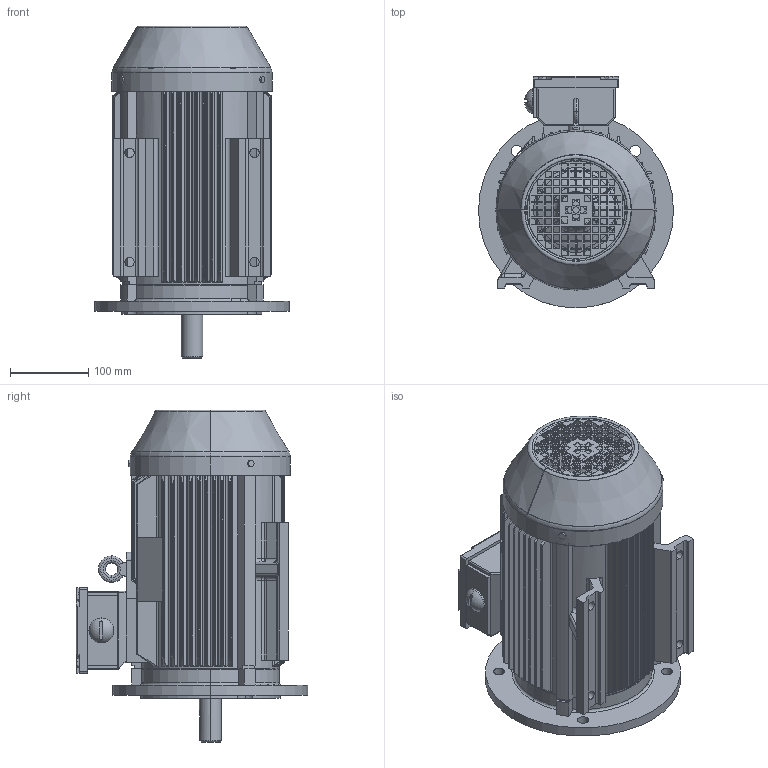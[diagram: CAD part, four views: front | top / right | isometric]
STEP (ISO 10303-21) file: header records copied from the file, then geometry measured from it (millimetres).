
FILE_DESCRIPTION (( 'STEP AP203' ), '1' );
FILE_NAME ('TE3-100L(GX) B35上.STEP', '2019-11-07T00:05:18', ( '微软用户' ), ( '微软中国' ), 'SwSTEP 2.0', 'SolidWorks 2012', '' );
FILE_SCHEMA (( 'CONFIG_CONTROL_DESIGN' ));
Length unit declared in the file: millimetre
Products named in the file (1): TE3-100L(GX) B35奻
Bounding box: 250 x 297 x 425.49 mm (x, y, z)
Volume: 4067499.7 mm3; surface area: 1032294.3 mm2
Topology: 8 solids, 8 shells, 1349 faces, 3649 edges, 2382 vertices
Faces by surface type: plane 782, cylinder 357, cone 104, torus 68, bspline 28, sphere 10
Entity records: 46584 total; most frequent: CARTESIAN_POINT 12935, ORIENTED_EDGE 7282, DIRECTION 6314, EDGE_CURVE 3641, VERTEX_POINT 2382, VECTOR 2350, LINE 2350, AXIS2_PLACEMENT_3D 1982
